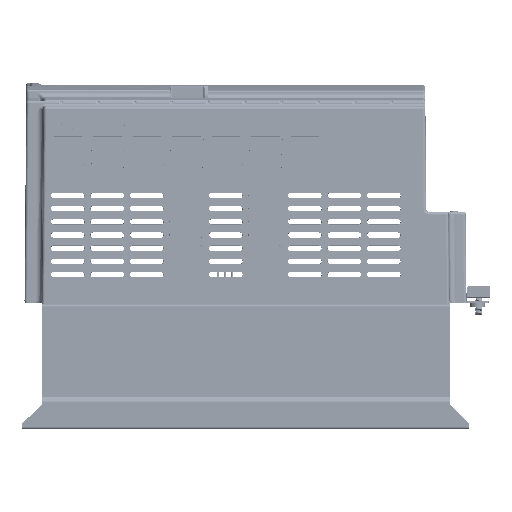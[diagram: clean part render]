
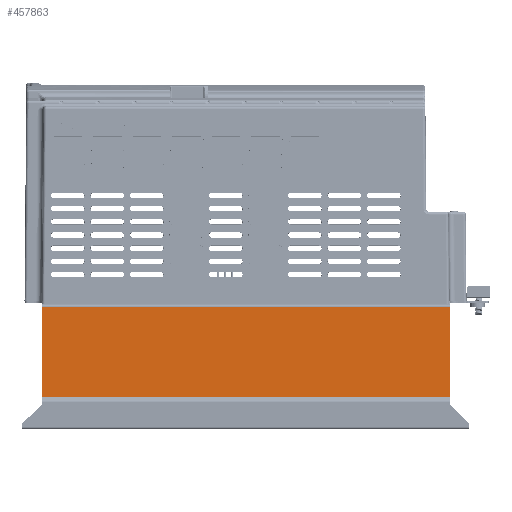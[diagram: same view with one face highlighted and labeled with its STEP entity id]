
A CAD part, left-side view. The second image highlights one B-rep face of the part: STEP entity #457863.
In plain terms, the highlighted planar face has unit normal (-1, 0, 0).
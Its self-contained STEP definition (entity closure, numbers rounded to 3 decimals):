
#60811=FACE_OUTER_BOUND('',#85588,.T.);
#85588=EDGE_LOOP('',(#396982,#396983,#396984,#396985));
#137133=LINE('',#1373770,#180882);
#137192=LINE('',#1373917,#180941);
#137198=LINE('',#1373933,#180947);
#137199=LINE('',#1373935,#180948);
#180882=VECTOR('',#582743,48.169);
#180941=VECTOR('',#582888,48.169);
#180947=VECTOR('',#582910,216.974);
#180948=VECTOR('',#582913,216.974);
#224330=VERTEX_POINT('',#1373766);
#224332=VERTEX_POINT('',#1373769);
#224376=VERTEX_POINT('',#1373913);
#224377=VERTEX_POINT('',#1373915);
#283843=EDGE_CURVE('',#224332,#224330,#137133,.T.);
#283921=EDGE_CURVE('',#224377,#224376,#137192,.T.);
#283929=EDGE_CURVE('',#224330,#224376,#137198,.T.);
#283930=EDGE_CURVE('',#224377,#224332,#137199,.T.);
#396982=ORIENTED_EDGE('',*,*,#283929,.T.);
#396983=ORIENTED_EDGE('',*,*,#283921,.F.);
#396984=ORIENTED_EDGE('',*,*,#283930,.T.);
#396985=ORIENTED_EDGE('',*,*,#283843,.T.);
#437631=PLANE('',#489767);
#457863=ADVANCED_FACE('',(#60811),#437631,.F.);
#489767=AXIS2_PLACEMENT_3D('',#1373934,#582911,#582912);
#582743=DIRECTION('',(0.,0.,1.));
#582888=DIRECTION('',(0.,0.,1.));
#582910=DIRECTION('',(0.,1.,0.));
#582911=DIRECTION('center_axis',(1.,0.,0.));
#582912=DIRECTION('ref_axis',(0.,0.,
1.));
#582913=DIRECTION('',(0.,-1.,0.));
#1373766=CARTESIAN_POINT('',(-74.175,-108.5,-2.95));
#1373769=CARTESIAN_POINT('',(-74.175,-108.5,-51.119));
#1373770=CARTESIAN_POINT('',(-74.175,-108.5,-51.119));
#1373913=CARTESIAN_POINT('',(-74.175,108.474,-2.95));
#1373915=CARTESIAN_POINT('',(-74.175,108.474,-51.119));
#1373917=CARTESIAN_POINT('',(-74.175,108.474,-51.119));
#1373933=CARTESIAN_POINT('',(-74.175,-108.5,-2.95));
#1373934=CARTESIAN_POINT('Origin',(-74.175,119.,-51.119));
#1373935=CARTESIAN_POINT('',(-74.175,108.474,-51.119));
